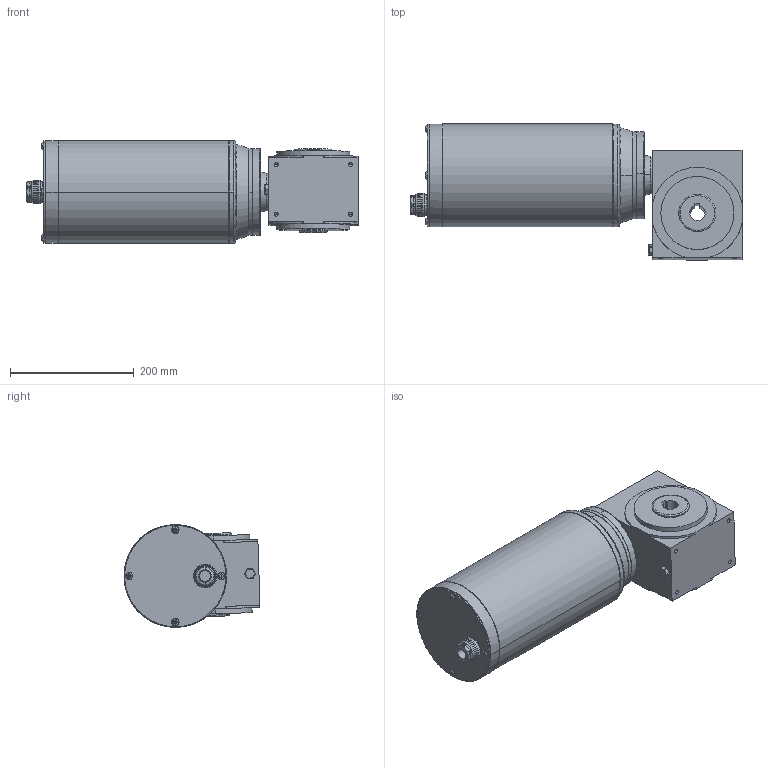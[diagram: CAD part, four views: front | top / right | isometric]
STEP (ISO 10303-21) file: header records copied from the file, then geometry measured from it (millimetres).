
FILE_DESCRIPTION (( 'STEP AP203' ), '1' );
FILE_NAME ('ESD63- K90.STEP', '2021-02-09T10:24:54', ( '' ), ( '' ), 'SwSTEP 2.0', 'SolidWorks 2012', '' );
FILE_SCHEMA (( 'CONFIG_CONTROL_DESIGN' ));
Length unit declared in the file: millimetre
Products named in the file (5): ESD063 - 90B14a; ESD63- K90; Ê+ÎÍ¦¾+¦-À-¦Âñ+Ë¦¾_M5X35-35-N; 90L4 B14; MK90_B14a
Assembly tree (7 placements, depth 3):
  ESD63- K90
    MK90_B14a
      90L4 B14
      Ê+ÎÍ¦¾+¦-À-¦Âñ+Ë¦¾_M5X35-35-N  x4
    ESD063 - 90B14a
Bounding box: 535.8 x 219.46 x 165.6 mm (x, y, z)
Volume: 10087148.3 mm3; surface area: 416752.8 mm2
Topology: 11 solids, 12 shells, 903 faces, 2037 edges, 1168 vertices
Faces by surface type: cone 393, cylinder 316, plane 107, bspline 87
Entity records: 17207 total; most frequent: CARTESIAN_POINT 5028, DIRECTION 2614, ORIENTED_EDGE 2330, EDGE_CURVE 1165, AXIS2_PLACEMENT_3D 1087, VERTEX_POINT 718, CIRCLE 644, EDGE_LOOP 569
